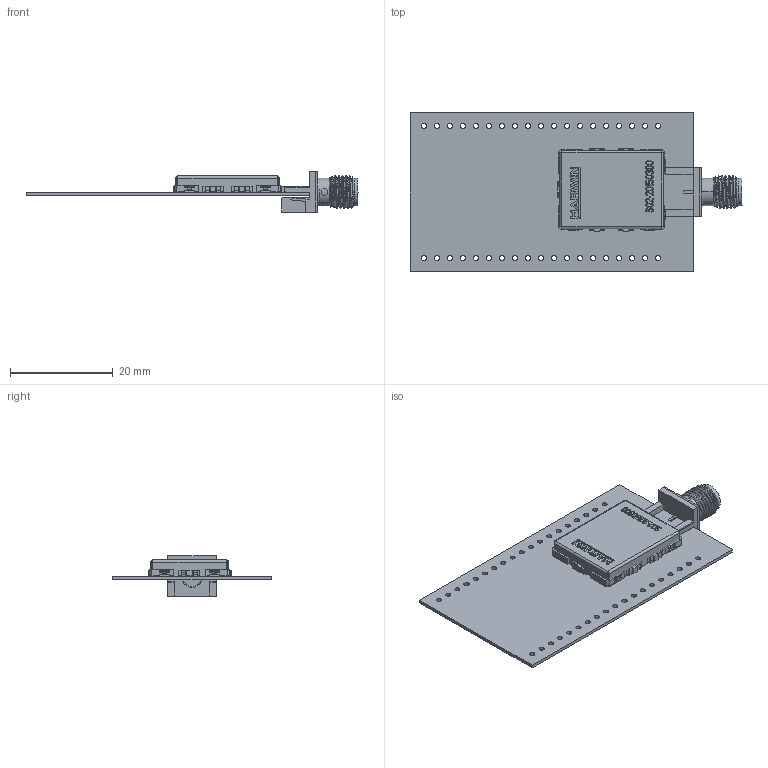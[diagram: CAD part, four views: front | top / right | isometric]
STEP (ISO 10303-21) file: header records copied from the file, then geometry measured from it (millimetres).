
FILE_DESCRIPTION(('Open CASCADE Model'),'2;1');
FILE_NAME('Open CASCADE Shape Model','2024-08-05T09:06:36',('Author'),( 'Open CASCADE'),'Open CASCADE STEP processor 7.5','Open CASCADE 7.5' ,'Unknown');
FILE_SCHEMA(('AUTOMOTIVE_DESIGN { 1 0 10303 214 1 1 1 1 }'));
Length unit declared in the file: millimetre
Products named in the file (93): PCB; Board; Open CASCADE STEP translator 7.5 6.1.1; C9; User Library-Chip Cap_MLCC_0201 (0603); HW1; s02-20150300; J1; 132415_RGB8421504; 142-0791-811_RGB8421504; C6; C0402; 5620773008; Extruded; X2; NX2016; 5620775728; 5620775888; C11; L4; L1; C14; C5; C8; SC12; Shield clip s0951-46; 5620774848; SC11; SC4; s0981-46; 5620778208; SC10; SC9; SC8; 6222887840; SC3; 5620778448; SC2; 5620778288; SC1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
Assembly tree (130 placements, depth 4):
  PCB
    Board
      Open CASCADE STEP translator 7.5 6.1.1
    C9
      User Library-Chip Cap_MLCC_0201 (0603)
    HW1
      s02-20150300
    J1
      132415_RGB8421504
      142-0791-811_RGB8421504
    C6
      C0402
      5620773008
        Extruded
    X2
      NX2016
      5620775728
        Extruded
      5620775888
        Extruded
    C11
      User Library-Chip Cap_MLCC_0201 (0603)
    L4
      User Library-Chip Cap_MLCC_0201 (0603)
    L1
      User Library-Chip Cap_MLCC_0201 (0603)
    C14
      User Library-Chip Cap_MLCC_0201 (0603)
    C5
      User Library-Chip Cap_MLCC_0201 (0603)
    C8
      User Library-Chip Cap_MLCC_0201 (0603)
    SC12
      Shield clip s0951-46
      5620774848
        Extruded
    SC11
      Shield clip s0951-46
      5620774848
        Extruded
    SC4
      s0981-46
      5620778208
        Extruded
    SC10
      Shield clip s0951-46
      5620774848
        Extruded
    SC9
      Shield clip s0951-46
      5620774848
        Extruded
    SC8
      Shield clip s0951-46
      6222887840
        Extruded
    SC3
      s0981-46
      5620778448
        Extruded
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Bounding box: 64.78 x 31 x 7.97 mm (x, y, z)
Volume: 1928.4 mm3; surface area: 6519.1 mm2
Topology: 72 solids, 78 shells, 4761 faces, 11445 edges, 6811 vertices
Faces by surface type: plane 2921, cylinder 1216, bspline 477, revolution 104, cone 35, sphere 8
Full cylindrical faces by diameter (mm): 0.5 x2, 0.991 x1, 1 x38, 1.27 x1, 1.321 x1, 4.039 x1, 4.115 x2, 4.674 x1, 5.08 x1, 5.385 x1
Entity records: 65663 total; most frequent: CARTESIAN_POINT 18632, ORIENTED_EDGE 9218, DIRECTION 8846, EDGE_CURVE 4610, LINE 3678, VECTOR 3678, VERTEX_POINT 2903, AXIS2_PLACEMENT_3D 2580
